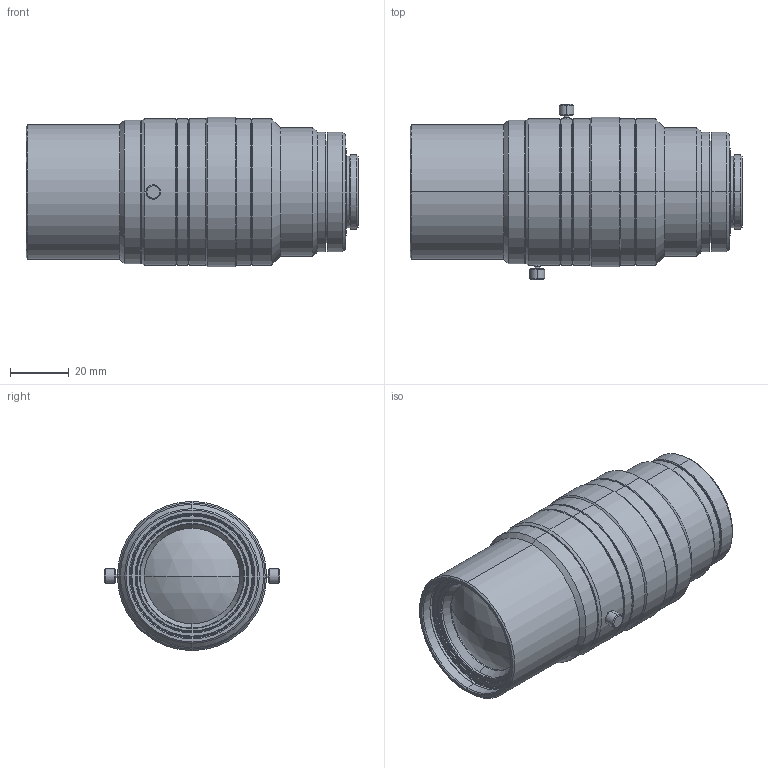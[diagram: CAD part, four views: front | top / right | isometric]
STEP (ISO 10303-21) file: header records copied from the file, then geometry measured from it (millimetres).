
FILE_DESCRIPTION (( 'STEP AP214' ), '1' );
FILE_NAME ('VS-H2518_IRC_11.STEP', '2018-05-31T05:50:28', ( '' ), ( '' ), 'SwSTEP 2.0', 'SolidWorks 2018', '' );
FILE_SCHEMA (( 'AUTOMOTIVE_DESIGN' ));
Length unit declared in the file: millimetre
Products named in the file (1): VS-H2518_IRC_11
Bounding box: 113.47 x 60.1 x 51 mm (x, y, z)
Volume: 183607.3 mm3; surface area: 24084.7 mm2
Topology: 3 solids, 3 shells, 176 faces, 348 edges, 201 vertices
Faces by surface type: cone 94, cylinder 52, plane 28, sphere 2
Entity records: 4562 total; most frequent: DIRECTION 904, CARTESIAN_POINT 726, ORIENTED_EDGE 696, AXIS2_PLACEMENT_3D 379, EDGE_CURVE 348, CIRCLE 202, VERTEX_POINT 201, EDGE_LOOP 199
